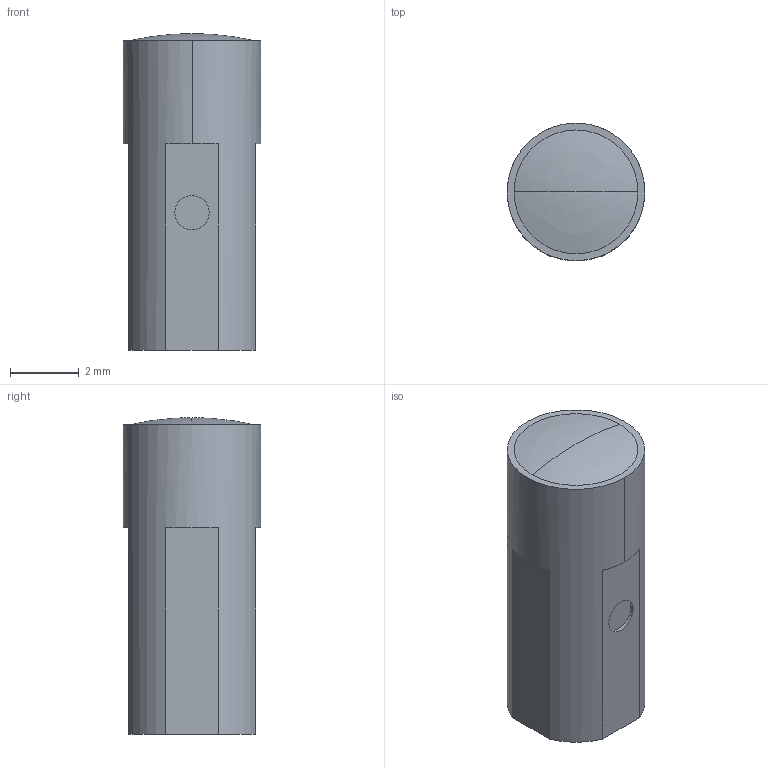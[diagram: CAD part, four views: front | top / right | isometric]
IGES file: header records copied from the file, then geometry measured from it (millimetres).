
Start section: SolidWorks IGES FILE using analytic representation for surfaces
Global section: file name: \\intra-srv04\開発データ\CAD_Data\CAD委員会\3D電子ｶﾀﾛｸﾞ\製品カタログ（新）\0_IGES\FV-LE1.IGS,41HSolidWorks 2004; native system: by SolidWorks Corporation; preprocessor: Version 5.3; author: mf1158; date: 050908.114419; units: millimetre
Bounding box: 4 x 4 x 9.2 mm (x, y, z)
Volume: 94.4 mm3; surface area: 162.2 mm2
Topology: 1 solids, 1 shells, 20 faces, 48 edges, 31 vertices
Faces by surface type: plane 12, revolution 8
